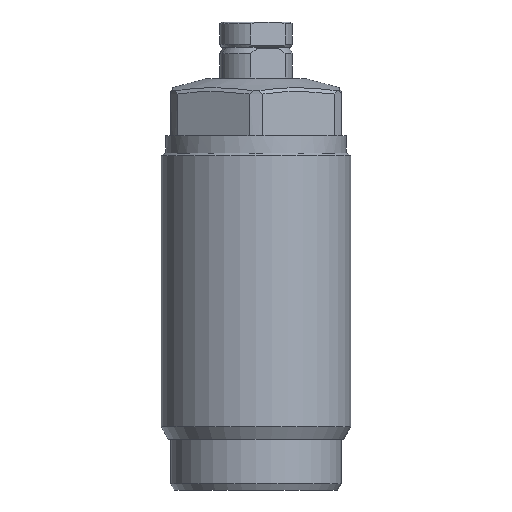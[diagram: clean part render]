
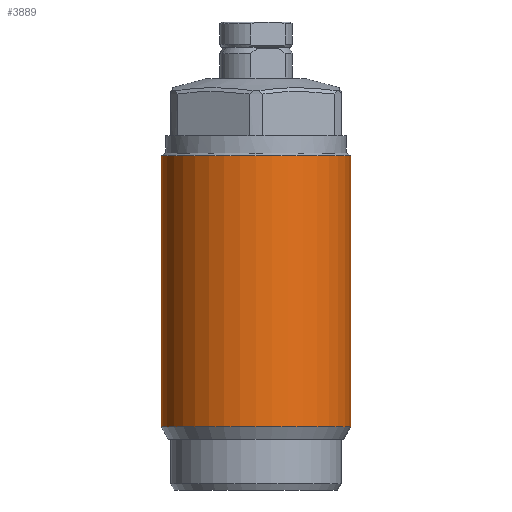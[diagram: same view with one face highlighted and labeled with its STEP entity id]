
A CAD part, front view. The second image highlights one B-rep face of the part: STEP entity #3889.
In plain terms, the highlighted cylindrical face has radius 15 mm (diameter 30 mm), a partial arc.
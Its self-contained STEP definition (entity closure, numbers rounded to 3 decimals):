
#63 = VERTEX_POINT ( 'NONE', #2706 ) ;
#78 = DIRECTION ( 'NONE',  ( 0., 0., -1. ) ) ;
#365 = CIRCLE ( 'NONE', #2024, 15. ) ;
#378 = CARTESIAN_POINT ( 'NONE',  ( 0., 0., 52.845 ) ) ;
#419 = EDGE_LOOP ( 'NONE', ( #3415, #2790, #1828, #2450 ) ) ;
#963 = CARTESIAN_POINT ( 'NONE',  ( 15., 0., 65. ) ) ;
#989 = DIRECTION ( 'NONE',  ( -1., 0., 0. ) ) ;
#1026 = VERTEX_POINT ( 'NONE', #1919 ) ;
#1030 = EDGE_CURVE ( 'NONE', #1026, #2730, #2830, .T. ) ;
#1056 = VERTEX_POINT ( 'NONE', #1953 ) ;
#1102 = CYLINDRICAL_SURFACE ( 'NONE', #2484, 15. ) ;
#1164 = DIRECTION ( 'NONE',  ( 0., 0., -1. ) ) ;
#1559 = AXIS2_PLACEMENT_3D ( 'NONE', #378, #3471, #989 ) ;
#1573 = LINE ( 'NONE', #963, #2218 ) ;
#1774 = VECTOR ( 'NONE', #78, 1000. ) ;
#1828 = ORIENTED_EDGE ( 'NONE', *, *, #1030, .T. ) ;
#1867 = EDGE_CURVE ( 'NONE', #1056, #63, #1573, .T. ) ;
#1919 = CARTESIAN_POINT ( 'NONE',  ( -15., 0., 52.845 ) ) ;
#1953 = CARTESIAN_POINT ( 'NONE',  ( 15., 0., 52.845 ) ) ;
#2024 = AXIS2_PLACEMENT_3D ( 'NONE', #3161, #3810, #2823 ) ;
#2218 = VECTOR ( 'NONE', #3448, 1000. ) ;
#2350 = CARTESIAN_POINT ( 'NONE',  ( 0., 0., 65. ) ) ;
#2450 = ORIENTED_EDGE ( 'NONE', *, *, #3583, .T. ) ;
#2484 = AXIS2_PLACEMENT_3D ( 'NONE', #2350, #1164, #3979 ) ;
#2663 = CARTESIAN_POINT ( 'NONE',  ( -15., 0., 10. ) ) ;
#2706 = CARTESIAN_POINT ( 'NONE',  ( 15., 0., 10. ) ) ;
#2730 = VERTEX_POINT ( 'NONE', #2663 ) ;
#2790 = ORIENTED_EDGE ( 'NONE', *, *, #3567, .T. ) ;
#2823 = DIRECTION ( 'NONE',  ( -1., 0., 0. ) ) ;
#2830 = LINE ( 'NONE', #3148, #1774 ) ;
#2979 = FACE_OUTER_BOUND ( 'NONE', #419, .T. ) ;
#3148 = CARTESIAN_POINT ( 'NONE',  ( -15., 0., 65. ) ) ;
#3161 = CARTESIAN_POINT ( 'NONE',  ( 0., 0., 10. ) ) ;
#3321 = CIRCLE ( 'NONE', #1559, 15. ) ;
#3415 = ORIENTED_EDGE ( 'NONE', *, *, #1867, .F. ) ;
#3448 = DIRECTION ( 'NONE',  ( 0., 0., -1. ) ) ;
#3471 = DIRECTION ( 'NONE',  ( 0., 0., -1. ) ) ;
#3567 = EDGE_CURVE ( 'NONE', #1056, #1026, #3321, .T. ) ;
#3583 = EDGE_CURVE ( 'NONE', #2730, #63, #365, .T. ) ;
#3810 = DIRECTION ( 'NONE',  ( 0., 0., 1. ) ) ;
#3889 = ADVANCED_FACE ( 'NONE', ( #2979 ), #1102, .T. ) ;
#3979 = DIRECTION ( 'NONE',  ( -1., 0., 0. ) ) ;
